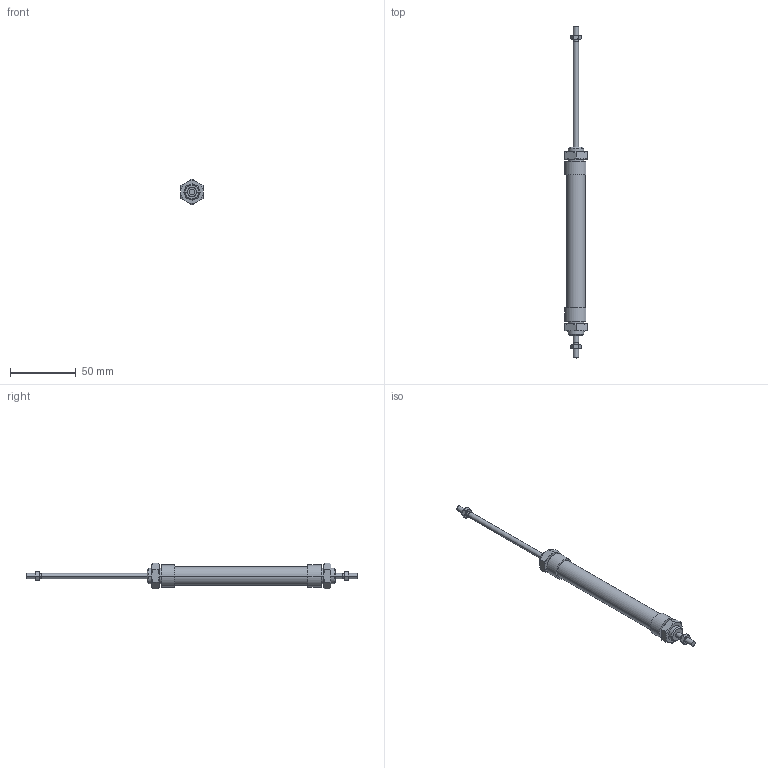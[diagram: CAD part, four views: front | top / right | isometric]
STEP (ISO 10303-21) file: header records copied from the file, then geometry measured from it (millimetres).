
FILE_DESCRIPTION((''),'2;1');
FILE_NAME('I:\DOC-EDP\Lib-3d\1200\CILINDRI\1262\1262_10_0075.stp','2003-04-02T18:57:10',('maffial1'),(''),'Autodesk Inventor (R) 6.0','Autodesk Inventor (R) 6.0','');
FILE_SCHEMA(('AUTOMOTIVE_DESIGN { 1 0 10303 214 1 1 1 1 }'));
Length unit declared in the file: millimetre
Products named in the file (5): 1262_10_0075; S1262_10_75; C1262_10_75; 1200_10_05; 1200_10_06
Assembly tree (6 placements, depth 2):
  1262_10_0075
    S1262_10_75
    C1262_10_75
    1200_10_05  x2
    1200_10_06  x2
Bounding box: 17 x 252 x 19.63 mm (x, y, z)
Volume: 25506.6 mm3; surface area: 13839.6 mm2
Topology: 6 solids, 6 shells, 170 faces, 356 edges, 208 vertices
Faces by surface type: cone 72, plane 46, bspline 30, cylinder 22
Entity records: 3247 total; most frequent: CARTESIAN_POINT 893, DIRECTION 490, ORIENTED_EDGE 456, EDGE_CURVE 228, AXIS2_PLACEMENT_3D 209, VERTEX_POINT 136, EDGE_LOOP 126, FACE_OUTER_BOUND 110
